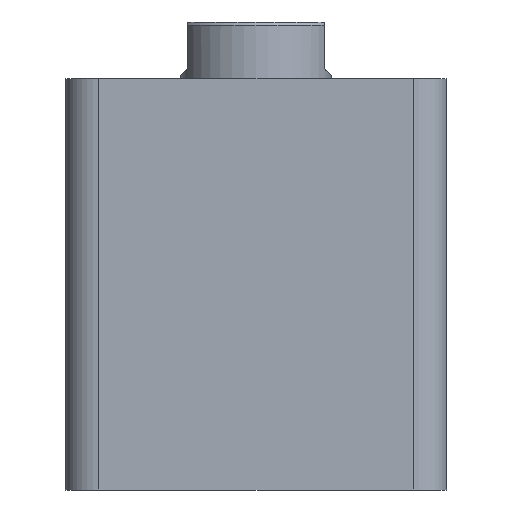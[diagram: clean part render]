
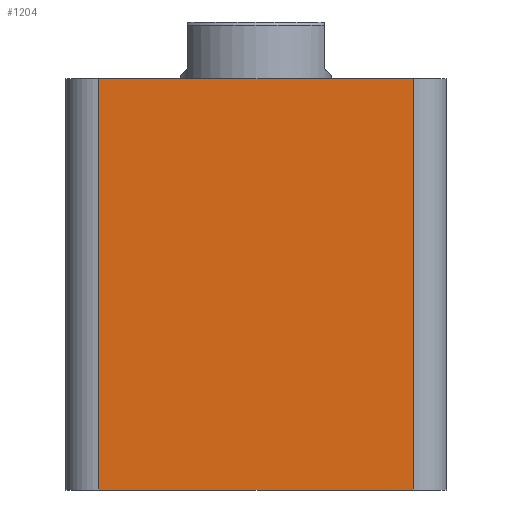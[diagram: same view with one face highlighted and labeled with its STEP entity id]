
A CAD part, front view. The second image highlights one B-rep face of the part: STEP entity #1204.
In plain terms, the highlighted planar face has unit normal (0, -1, 0).
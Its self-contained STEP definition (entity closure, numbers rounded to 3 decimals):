
#145 = CARTESIAN_POINT ( 'NONE',  ( -47., -57., 123. ) ) ;
#153 = CARTESIAN_POINT ( 'NONE',  ( 47., -57., 0. ) ) ;
#181 = CARTESIAN_POINT ( 'NONE',  ( -47., -57., 0. ) ) ;
#219 = CARTESIAN_POINT ( 'NONE',  ( 47., -57., 123. ) ) ;
#244 = VERTEX_POINT ( 'NONE', #153 ) ;
#252 = VERTEX_POINT ( 'NONE', #219 ) ;
#304 = VERTEX_POINT ( 'NONE', #181 ) ;
#316 = VERTEX_POINT ( 'NONE', #145 ) ;
#448 = FACE_OUTER_BOUND ( 'NONE', #2472, .T. ) ;
#931 = AXIS2_PLACEMENT_3D ( 'NONE', #1827, #1831, #1832 ) ;
#1204 = ADVANCED_FACE ( 'NONE', ( #448 ), #1829, .F. ) ;
#1280 = EDGE_CURVE ( 'NONE', #304, #244, #1433, .T. ) ;
#1281 = EDGE_CURVE ( 'NONE', #244, #252, #1427, .T. ) ;
#1282 = EDGE_CURVE ( 'NONE', #316, #252, #1437, .T. ) ;
#1283 = EDGE_CURVE ( 'NONE', #316, #304, #1439, .T. ) ;
#1427 = LINE ( 'NONE', #2020, #1438 ) ;
#1433 = LINE ( 'NONE', #2030, #1436 ) ;
#1436 = VECTOR ( 'NONE', #2031, 1000. ) ;
#1437 = LINE ( 'NONE', #2033, #1440 ) ;
#1438 = VECTOR ( 'NONE', #2032, 1000. ) ;
#1439 = LINE ( 'NONE', #2035, #1442 ) ;
#1440 = VECTOR ( 'NONE', #2034, 1000. ) ;
#1442 = VECTOR ( 'NONE', #2036, 1000. ) ;
#1827 = CARTESIAN_POINT ( 'NONE',  ( -57., -57., 123. ) ) ;
#1829 = PLANE ( 'NONE',  #931 ) ;
#1831 = DIRECTION ( 'NONE',  ( 0., 1., 0. ) ) ;
#1832 = DIRECTION ( 'NONE',  ( 0., 0., 1. ) ) ;
#2020 = CARTESIAN_POINT ( 'NONE',  ( 47., -57., 123. ) ) ;
#2030 = CARTESIAN_POINT ( 'NONE',  ( -57., -57., 0. ) ) ;
#2031 = DIRECTION ( 'NONE',  ( 1., 0., 0. ) ) ;
#2032 = DIRECTION ( 'NONE',  ( 0., 0., 1. ) ) ;
#2033 = CARTESIAN_POINT ( 'NONE',  ( -57., -57., 123. ) ) ;
#2034 = DIRECTION ( 'NONE',  ( 1., 0., 0. ) ) ;
#2035 = CARTESIAN_POINT ( 'NONE',  ( -47., -57., 123. ) ) ;
#2036 = DIRECTION ( 'NONE',  ( 0., 0., -1. ) ) ;
#2472 = EDGE_LOOP ( 'NONE', ( #2551, #2552, #2553, #2554 ) ) ;
#2551 = ORIENTED_EDGE ( 'NONE', *, *, #1280, .T. ) ;
#2552 = ORIENTED_EDGE ( 'NONE', *, *, #1281, .T. ) ;
#2553 = ORIENTED_EDGE ( 'NONE', *, *, #1282, .F. ) ;
#2554 = ORIENTED_EDGE ( 'NONE', *, *, #1283, .T. ) ;
